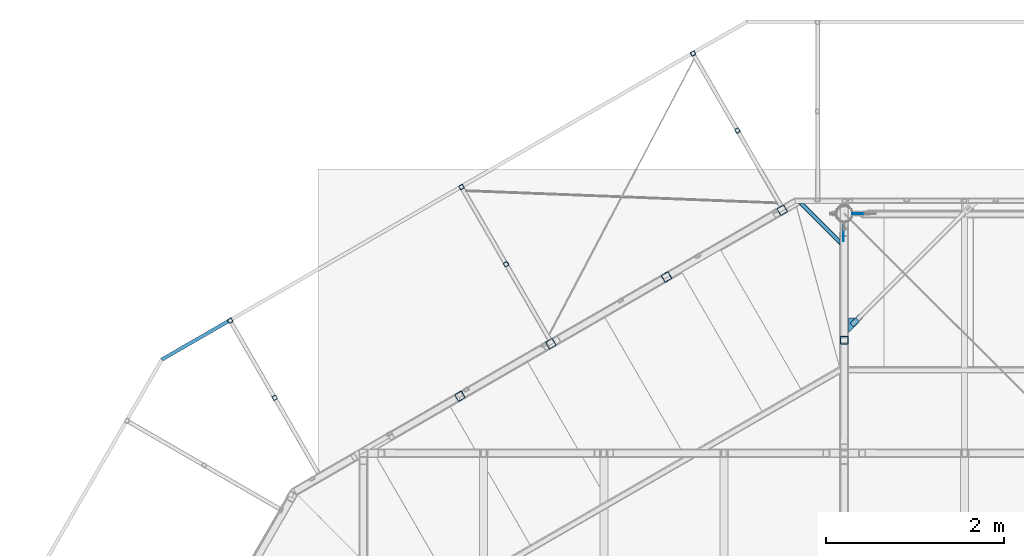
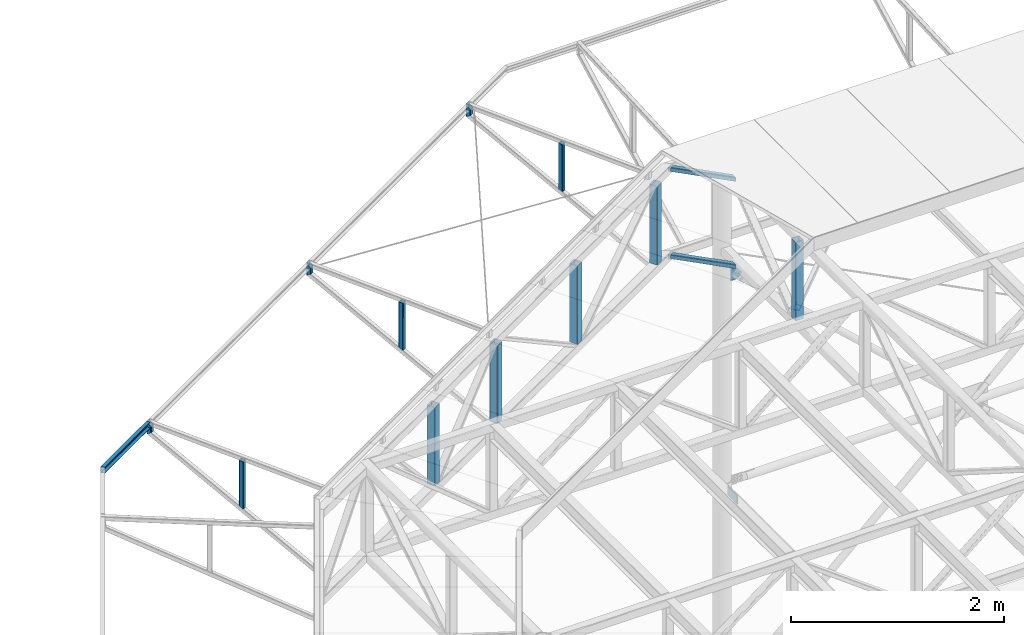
# One storey, part 88 of 132: 18 discrete accessories, 8 elements without a shape of their own.
"""IFC2X3 building model written with IfcOpenShell, lengths in millimetres."""

from ifc_helpers import new_model, si_unit, frame, origin_with_axes, origin_2d_with_axis, place, context, subcontext, project, spatial, polyline, hollow_rectangle, u_section, outline, extrude, boolean, clip, halfspace, material, type_object, element, aggregate, save


model = new_model("IFC2X3")

# Units and contexts
model_context = context("Model", 3, precision=1e-05, world=origin_with_axes())
body_context = subcontext(model_context, "Body", "Model", "MODEL_VIEW")
ifc_project = project(units=[si_unit("LENGTHUNIT", "METRE", prefix="MILLI"), si_unit("AREAUNIT", "SQUARE_METRE"), si_unit("VOLUMEUNIT", "CUBIC_METRE"), si_unit("MASSUNIT", "GRAM", prefix="KILO"), si_unit("TIMEUNIT", "SECOND"), si_unit("PLANEANGLEUNIT", "RADIAN"), si_unit("SOLIDANGLEUNIT", "STERADIAN"), si_unit("THERMODYNAMICTEMPERATUREUNIT", "DEGREE_CELSIUS"), si_unit("LUMINOUSINTENSITYUNIT", "LUMEN")], contexts=[model_context])

# Site, building, storey
site_placement = place(None, origin_with_axes())
site = spatial("IfcSite", under=ifc_project, at=site_placement, Name="Budowa", CompositionType="ELEMENT")
building_placement = place(site_placement, origin_with_axes())
building = spatial("IfcBuilding", under=site, at=building_placement, Name="Undefined", CompositionType="ELEMENT")
storey_placement = place(building_placement, origin_with_axes())
storey = spatial("IfcBuildingStorey", under=building, at=storey_placement, Name="Undefined", CompositionType="ELEMENT", Elevation=0.0)

# Assembly, discrete accessory
assembly_1_placement = place(storey_placement, origin_with_axes())
assembly_1 = element("IfcElementAssembly", 1, at=assembly_1_placement, inside=storey, Name="Steel Assembly", AssemblyPlace="NOTDEFINED", PredefinedType="RIGID_FRAME")
ifc_material = material(Name="STEEL/S235")
discrete_accessory_type_1 = type_object("IfcDiscreteAccessoryType", Name="BLACHA")
discrete_accessory_1_placement = place(assembly_1_placement, frame((9513.8999996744, 23999.9990001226, 12610.0003356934), z_axis=(0.0, -1.0, 0.0), x_axis=(0.0, 0.0, -1.0)))
discrete_accessory_1 = element("IfcDiscreteAccessory", 2, at=discrete_accessory_1_placement, type_object=discrete_accessory_type_1, material=ifc_material, Name="BLACHA", ObjectType="BL8*126", context=body_context, shape_type="SweptSolid", body=[
    extrude(outline(polyline([(0.0, 0.0), (203.000061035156, 0.0), (203.000061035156, 73.001091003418), (144.99951171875, 126.000587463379), (0.0, 10.0), (0.0, 0.0)])), frame((0.0, 0.0, -4.0), z_axis=(0.0, 0.0, 1.0), x_axis=(1.0, 0.0, 0.0)), (0.0, 0.0, 1.0), 8.0),
])
aggregate(assembly_1, [discrete_accessory_1])

assembly_2_placement = place(storey_placement, origin_with_axes())
assembly_2 = element("IfcElementAssembly", 3, at=assembly_2_placement, inside=storey, Name="Steel Assembly", AssemblyPlace="NOTDEFINED", PredefinedType="RIGID_FRAME")
discrete_accessory_2_placement = place(assembly_2_placement, frame((9417.00000249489, 23872.0920947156, 10116.0003779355), z_axis=(1.0, 0.0, 0.0), x_axis=(0.0, -1.0, 0.0)))
discrete_accessory_2 = element("IfcDiscreteAccessory", 4, at=discrete_accessory_2_placement, type_object=discrete_accessory_type_1, material=ifc_material, Name="BLACHA", ObjectType="BL8*100", context=body_context, shape_type="SweptSolid", body=[
    extrude(outline(polyline([(180.0, 50.0), (180.0, -50.0), (0.0, -50.0), (0.0, 50.0), (180.0, 50.0)])), frame((0.0, 0.0, -4.0), z_axis=(0.0, 0.0, 1.0), x_axis=(1.0, 0.0, 0.0)), (0.0, 0.0, 1.0), 8.0),
])
aggregate(assembly_2, [discrete_accessory_2])

assembly_3_placement = place(storey_placement, origin_with_axes())
assembly_3 = element("IfcElementAssembly", 5, at=assembly_3_placement, inside=storey, Name="Steel Assembly", AssemblyPlace="NOTDEFINED", PredefinedType="RIGID_FRAME")
discrete_accessory_3_placement = place(assembly_3_placement, frame((9587.99495120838, 22870.321358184, 12830.0), z_axis=(0.0, 0.0, 1.0), x_axis=(-0.70710678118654, -0.707106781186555, 0.0)))
discrete_accessory_3 = element("IfcDiscreteAccessory", 6, at=discrete_accessory_3_placement, type_object=discrete_accessory_type_1, material=ifc_material, Name="BLACHA", ObjectType="BL6*60", context=body_context, shape_type="SweptSolid", body=[
    extrude(outline(polyline([(0.0, 0.0), (139.99999999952, -6.2755134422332e-10), (139.99999999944, 59.9999999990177), (0.0, 60.0), (-8.00355337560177e-11, 54.9999999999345), (49.9999999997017, 54.9999999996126), (49.9999999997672, 4.99999999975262), (-8.73114913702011e-11, 5.00000000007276), (0.0, 0.0)])), frame((0.0, 0.0, -3.0), z_axis=(0.0, 0.0, 1.0), x_axis=(1.0, 0.0, 0.0)), (0.0, 0.0, 1.0), 6.0),
])
aggregate(assembly_3, [discrete_accessory_3])

assembly_4_placement = place(storey_placement, origin_with_axes())
assembly_4 = element("IfcElementAssembly", 7, at=assembly_4_placement, inside=storey, Name="Steel Assembly", AssemblyPlace="NOTDEFINED", PredefinedType="RIGID_FRAME")
discrete_accessory_4_placement = place(assembly_4_placement, frame((9474.99999994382, 22831.4304833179, 12824.0), z_axis=(0.0, 0.0, 1.0), x_axis=(0.0, -1.0, 0.0)))
discrete_accessory_4 = element("IfcDiscreteAccessory", 8, at=discrete_accessory_4_placement, type_object=discrete_accessory_type_1, material=ifc_material, Name="BLACHA", ObjectType="BL6*117", context=body_context, shape_type="SweptSolid", body=[
    extrude(outline(polyline([(0.0, 0.0), (166.027954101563, 0.0), (49.4974746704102, 116.530487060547), (0.0, 67.0330123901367), (0.0, 0.0)])), frame((0.0, 0.0, -3.0), z_axis=(0.0, 0.0, 1.0), x_axis=(1.0, 0.0, 0.0)), (0.0, 0.0, 1.0), 6.0),
])

assembly_5_placement = place(storey_placement, origin_with_axes())
assembly_5 = element("IfcElementAssembly", 9, at=assembly_5_placement, inside=storey, Name="Steel Assembly", AssemblyPlace="NOTDEFINED", PredefinedType="RIGID_FRAME")
discrete_accessory_type_2 = type_object("IfcDiscreteAccessoryType", Name="BEAM")
discrete_accessory_5_placement = place(assembly_5_placement, frame((2505.43119991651, 22791.0277361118, 13945.0050192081), z_axis=(0.0, 0.0, -1.0), x_axis=(-0.866042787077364, -0.499969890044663, 0.0)))
discrete_accessory_5 = element("IfcDiscreteAccessory", 10, at=discrete_accessory_5_placement, type_object=discrete_accessory_type_2, material=ifc_material, Name="BEAM", ObjectType="C70*40*4", context=body_context, shape_type="Clipping", body=[
    clip(extrude(u_section(Depth=70.0, FlangeWidth=40.0, WebThickness=4.0, FlangeThickness=4.0, FilletRadius=6.0, at=origin_2d_with_axis()), frame((895.286205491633, 4.9698367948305e-14, 0.0), z_axis=(-1.0, 0.0, 0.0), x_axis=(0.0, -1.0, 0.0)), (0.0, 0.0, 1.0), 895.29), halfspace(frame((862.95291420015, 20.000069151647, -3.95153965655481e-05), z_axis=(0.965917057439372, -0.258851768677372, 5.11236506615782e-07), x_axis=(-1.71128704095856e-10, -1.71094966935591e-06, -0.999999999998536)), False)),
])
aggregate(assembly_5, [discrete_accessory_5])

# Assembly, discrete accessories
assembly_6_placement = place(storey_placement, origin_with_axes())
assembly_6 = element("IfcElementAssembly", 11, at=assembly_6_placement, inside=storey, Name="Steel Assembly", AssemblyPlace="NOTDEFINED", PredefinedType="RIGID_FRAME")
discrete_accessory_6_placement = place(assembly_6_placement, frame((3029.55200915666, 21933.1539823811, 13878.94002838), z_axis=(-0.866042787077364, -0.499969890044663, 0.0), x_axis=(0.0, 0.0, -1.0)))
discrete_accessory_6 = element("IfcDiscreteAccessory", 12, at=discrete_accessory_6_placement, type_object=discrete_accessory_type_2, material=ifc_material, Name="BEAM", ObjectType="SHS50*4", context=body_context, shape_type="Clipping", body=[
    clip(clip(extrude(hollow_rectangle(XDim=50.0, YDim=50.0, WallThickness=4.0, InnerFilletRadius=4.0, OuterFilletRadius=8.0, at=origin_2d_with_axis()), frame((545.085010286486, 0.0, 0.0), z_axis=(-1.0, 0.0, 0.0), x_axis=(0.0, -1.0, 0.0)), (0.0, 0.0, 1.0), 559.36), halfspace(frame((536.667324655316, 11.6203888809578, 999.999999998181), z_axis=(-0.885407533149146, 0.464815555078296, 0.0), x_axis=(-0.464815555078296, -0.885407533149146, 0.0)), True)), halfspace(frame((0.185048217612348, -1.24844042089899, 999.999999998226), z_axis=(0.998752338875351, -0.0499376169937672, 0.0), x_axis=(0.0499376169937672, 0.998752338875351, 0.0)), True)),
])
discrete_accessory_7_placement = place(assembly_6_placement, frame((2529.58211910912, 22799.1967694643, 13979.9998397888), z_axis=(-0.866042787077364, -0.499969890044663, 0.0), x_axis=(0.0, 0.0, -1.0)))
discrete_accessory_7 = element("IfcDiscreteAccessory", 13, at=discrete_accessory_7_placement, type_object=discrete_accessory_type_2, material=ifc_material, Name="BEAM", ObjectType="SHS50*4", context=body_context, shape_type="Clipping", body=[
    clip(clip(extrude(hollow_rectangle(XDim=50.0, YDim=50.0, WallThickness=4.0, InnerFilletRadius=4.0, OuterFilletRadius=8.0, at=origin_2d_with_axis()), frame((176.695154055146, 0.0, 0.0), z_axis=(-1.0, 0.0, 0.0), x_axis=(0.0, -1.0, 0.0)), (0.0, 0.0, 1.0), 192.23), halfspace(frame((149.999998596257, -25.0000000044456, 4.06544131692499e-09), z_axis=(0.855808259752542, 0.517293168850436, 0.0), x_axis=(0.0, 0.0, 1.0)), False)), halfspace(frame((-0.00517941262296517, -25.0000000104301, 1.04982973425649e-08), z_axis=(-0.689225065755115, 0.724547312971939, 0.0), x_axis=(0.0, 0.0, -1.0)), False)),
])
aggregate(assembly_6, [discrete_accessory_6, discrete_accessory_7])

assembly_7_placement = place(storey_placement, origin_with_axes())
assembly_7 = element("IfcElementAssembly", 14, at=assembly_7_placement, inside=storey, Name="Steel Assembly", AssemblyPlace="NOTDEFINED", PredefinedType="RIGID_FRAME")
discrete_accessory_8_placement = place(assembly_7_placement, frame((8225.80873164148, 24932.9733226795, 13878.94002838), z_axis=(-0.866042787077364, -0.499969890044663, 0.0), x_axis=(0.0, 0.0, -1.0)))
discrete_accessory_8 = element("IfcDiscreteAccessory", 15, at=discrete_accessory_8_placement, type_object=discrete_accessory_type_2, material=ifc_material, Name="BEAM", ObjectType="SHS50*4", context=body_context, shape_type="Clipping", body=[
    clip(clip(extrude(hollow_rectangle(XDim=50.0, YDim=50.0, WallThickness=4.0, InnerFilletRadius=4.0, OuterFilletRadius=8.0, at=origin_2d_with_axis()), frame((545.085010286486, 0.0, 0.0), z_axis=(-1.0, 0.0, 0.0), x_axis=(0.0, -1.0, 0.0)), (0.0, 0.0, 1.0), 559.36), halfspace(frame((536.667324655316, 11.6203888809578, 999.999999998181), z_axis=(-0.885407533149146, 0.464815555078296, 0.0), x_axis=(-0.464815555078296, -0.885407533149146, 0.0)), True)), halfspace(frame((0.185048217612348, -1.24844042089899, 999.999999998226), z_axis=(0.998752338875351, -0.0499376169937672, 0.0), x_axis=(0.0499376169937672, 0.998752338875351, 0.0)), True)),
])
discrete_accessory_9_placement = place(assembly_7_placement, frame((7725.8388415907, 25799.0161097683, 13979.9998397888), z_axis=(-0.866042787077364, -0.499969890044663, 0.0), x_axis=(0.0, 0.0, -1.0)))
discrete_accessory_9 = element("IfcDiscreteAccessory", 16, at=discrete_accessory_9_placement, type_object=discrete_accessory_type_2, material=ifc_material, Name="BEAM", ObjectType="SHS50*4", context=body_context, shape_type="Clipping", body=[
    clip(clip(extrude(hollow_rectangle(XDim=50.0, YDim=50.0, WallThickness=4.0, InnerFilletRadius=4.0, OuterFilletRadius=8.0, at=origin_2d_with_axis()), frame((176.695154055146, 0.0, 0.0), z_axis=(-1.0, 0.0, 0.0), x_axis=(0.0, -1.0, 0.0)), (0.0, 0.0, 1.0), 192.23), halfspace(frame((149.999998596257, -25.0000000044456, 4.06544131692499e-09), z_axis=(0.855808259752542, 0.517293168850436, 0.0), x_axis=(0.0, 0.0, 1.0)), False)), halfspace(frame((-0.00517941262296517, -25.0000000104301, 1.04982973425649e-08), z_axis=(-0.689225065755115, 0.724547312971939, 0.0), x_axis=(0.0, 0.0, -1.0)), False)),
])
aggregate(assembly_7, [discrete_accessory_8, discrete_accessory_9])

assembly_8_placement = place(storey_placement, origin_with_axes())
assembly_8 = element("IfcElementAssembly", 17, at=assembly_8_placement, inside=storey, Name="Steel Assembly", AssemblyPlace="NOTDEFINED", PredefinedType="RIGID_FRAME")
discrete_accessory_10_placement = place(assembly_8_placement, frame((5627.68037039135, 23433.0636525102, 13878.94002838), z_axis=(-0.866042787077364, -0.499969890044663, 0.0), x_axis=(0.0, 0.0, -1.0)))
discrete_accessory_10 = element("IfcDiscreteAccessory", 18, at=discrete_accessory_10_placement, type_object=discrete_accessory_type_2, material=ifc_material, Name="BEAM", ObjectType="SHS50*4", context=body_context, shape_type="Clipping", body=[
    clip(clip(extrude(hollow_rectangle(XDim=50.0, YDim=50.0, WallThickness=4.0, InnerFilletRadius=4.0, OuterFilletRadius=8.0, at=origin_2d_with_axis()), frame((545.085010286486, 0.0, 0.0), z_axis=(-1.0, 0.0, 0.0), x_axis=(0.0, -1.0, 0.0)), (0.0, 0.0, 1.0), 559.36), halfspace(frame((536.667324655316, 11.6203888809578, 999.999999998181), z_axis=(-0.885407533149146, 0.464815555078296, 0.0), x_axis=(-0.464815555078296, -0.885407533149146, 0.0)), True)), halfspace(frame((0.185048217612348, -1.24844042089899, 999.999999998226), z_axis=(0.998752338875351, -0.0499376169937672, 0.0), x_axis=(0.0499376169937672, 0.998752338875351, 0.0)), True)),
])
discrete_accessory_11_placement = place(assembly_8_placement, frame((5127.71048034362, 24299.1064395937, 13979.9998397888), z_axis=(-0.866042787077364, -0.499969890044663, 0.0), x_axis=(0.0, 0.0, -1.0)))
discrete_accessory_11 = element("IfcDiscreteAccessory", 19, at=discrete_accessory_11_placement, type_object=discrete_accessory_type_2, material=ifc_material, Name="BEAM", ObjectType="SHS50*4", context=body_context, shape_type="Clipping", body=[
    clip(clip(extrude(hollow_rectangle(XDim=50.0, YDim=50.0, WallThickness=4.0, InnerFilletRadius=4.0, OuterFilletRadius=8.0, at=origin_2d_with_axis()), frame((176.695154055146, 0.0, 0.0), z_axis=(-1.0, 0.0, 0.0), x_axis=(0.0, -1.0, 0.0)), (0.0, 0.0, 1.0), 192.23), halfspace(frame((149.999998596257, -25.0000000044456, 4.06544131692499e-09), z_axis=(0.855808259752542, 0.517293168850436, 0.0), x_axis=(0.0, 0.0, 1.0)), False)), halfspace(frame((-0.00517941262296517, -25.0000000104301, 1.04982973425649e-08), z_axis=(-0.689225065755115, 0.724547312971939, 0.0), x_axis=(0.0, 0.0, -1.0)), False)),
])
aggregate(assembly_8, [discrete_accessory_10, discrete_accessory_11])

# Discrete accessory
discrete_accessory_12_placement = place(assembly_4_placement, frame((9424.99999994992, 23630.9000000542, 12830.0), z_axis=(0.0, 0.0, 1.0), x_axis=(-0.707106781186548, 0.707106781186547, 0.0)))
solid_1 = boolean("DIFFERENCE", extrude(hollow_rectangle(XDim=100.0, YDim=100.0, WallThickness=5.0, InnerFilletRadius=5.0, OuterFilletRadius=10.0, at=origin_2d_with_axis()), frame((2199.68118985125, 5472.49499178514, 1.81898940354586e-12), z_axis=(-0.259884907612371, -0.965639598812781, 0.0), x_axis=(0.965639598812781, -0.259884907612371, 0.0)), (0.0, 0.0, 1.0), 5667.29), halfspace(frame((782.060099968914, 12.727922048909, 1.81898940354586e-12), z_axis=(0.22574645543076, -0.9741860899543, 0.0), x_axis=(-0.9741860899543, -0.22574645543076, 0.0)), False))
discrete_accessory_12 = element("IfcDiscreteAccessory", 20, at=discrete_accessory_12_placement, type_object=discrete_accessory_type_2, material=ifc_material, Name="BEAM", ObjectType="SHS50*4", context=body_context, shape_type="CSG", body=[
    boolean("DIFFERENCE", boolean("DIFFERENCE", boolean("DIFFERENCE", extrude(hollow_rectangle(XDim=50.0, YDim=50.0, WallThickness=4.0, InnerFilletRadius=4.0, OuterFilletRadius=8.0, at=origin_2d_with_axis()), frame((721.003612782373, 9.09494701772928e-13, 1.81898940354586e-12), z_axis=(-1.0, 0.0, 0.0), x_axis=(0.0, -1.0, 0.0)), (0.0, 0.0, 1.0), 686.82), solid_1), halfspace(frame((705.69256762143, 21.2132034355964, 1000.0), z_axis=(-0.707106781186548, 0.707106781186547, 0.0), x_axis=(-0.70710678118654, -0.707106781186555, 0.0)), True)), halfspace(frame((35.3553390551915, 35.3553390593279, 1000.0), z_axis=(0.707106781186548, 0.707106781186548, 0.0), x_axis=(-0.707106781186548, 0.707106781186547, 0.0)), True)),
])

discrete_accessory_13_placement = place(assembly_4_placement, frame((9424.99999994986, 23630.9000000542, 13830.0), z_axis=(0.0, 0.0, 1.0), x_axis=(-0.707106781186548, 0.707106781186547, 0.0)))
solid_2 = boolean("DIFFERENCE", extrude(hollow_rectangle(XDim=100.0, YDim=100.0, WallThickness=5.0, InnerFilletRadius=5.0, OuterFilletRadius=10.0, at=origin_2d_with_axis()), frame((2199.68118985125, 5472.49499178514, 1.81898940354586e-12), z_axis=(-0.259884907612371, -0.965639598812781, 0.0), x_axis=(0.965639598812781, -0.259884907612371, 0.0)), (0.0, 0.0, 1.0), 5667.29), halfspace(frame((782.060099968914, 12.727922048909, 1.81898940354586e-12), z_axis=(0.22574645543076, -0.9741860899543, 0.0), x_axis=(-0.9741860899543, -0.22574645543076, 0.0)), False))
discrete_accessory_13 = element("IfcDiscreteAccessory", 21, at=discrete_accessory_13_placement, type_object=discrete_accessory_type_2, material=ifc_material, Name="BEAM", ObjectType="SHS50*4", context=body_context, shape_type="CSG", body=[
    boolean("DIFFERENCE", boolean("DIFFERENCE", boolean("DIFFERENCE", extrude(hollow_rectangle(XDim=50.0, YDim=50.0, WallThickness=4.0, InnerFilletRadius=4.0, OuterFilletRadius=8.0, at=origin_2d_with_axis()), frame((721.003612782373, 9.09494701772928e-13, 1.81898940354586e-12), z_axis=(-1.0, 0.0, 0.0), x_axis=(0.0, -1.0, 0.0)), (0.0, 0.0, 1.0), 686.82), solid_2), halfspace(frame((705.69256762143, 21.2132034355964, 1000.0), z_axis=(-0.707106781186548, 0.707106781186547, 0.0), x_axis=(-0.70710678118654, -0.707106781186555, 0.0)), True)), halfspace(frame((35.3553390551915, 35.3553390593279, 1000.0), z_axis=(0.707106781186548, 0.707106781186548, 0.0), x_axis=(-0.707106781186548, 0.707106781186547, 0.0)), True)),
])

discrete_accessory_14_placement = place(assembly_4_placement, frame((5109.60877879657, 21950.3186919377, 12880.0), z_axis=(0.0, 0.0, 1.0), x_axis=(-0.499969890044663, 0.866042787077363, 0.0)))
discrete_accessory_14 = element("IfcDiscreteAccessory", 22, at=discrete_accessory_14_placement, type_object=discrete_accessory_type_2, material=ifc_material, Name="BEAM", ObjectType="SHS90*4", context=body_context, shape_type="Clipping", body=[
    clip(clip(extrude(hollow_rectangle(XDim=90.0, YDim=90.0, WallThickness=4.0, InnerFilletRadius=4.0, OuterFilletRadius=8.0, at=origin_2d_with_axis()), frame((0.0, 0.0, 900.0), z_axis=(0.0, 0.0, -1.0), x_axis=(0.0, 1.0, 0.0)), (0.0, 0.0, 1.0), 900.0), halfspace(frame((1000.0, 0.0, 900.0), z_axis=(0.0, 0.0, -1.0), x_axis=(0.0, 1.0, 0.0)), True)), halfspace(frame((1000.0, 0.0, 0.0), z_axis=(0.0, 0.0, 1.0), x_axis=(0.0, -1.0, 0.0)), True)),
])

discrete_accessory_15_placement = place(assembly_4_placement, frame((6129.80718197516, 22539.2832224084, 12880.0), z_axis=(0.0, 0.0, 1.0), x_axis=(-0.499969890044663, 0.866042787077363, 0.0)))
discrete_accessory_15 = element("IfcDiscreteAccessory", 23, at=discrete_accessory_15_placement, type_object=discrete_accessory_type_2, material=ifc_material, Name="BEAM", ObjectType="SHS90*4", context=body_context, shape_type="Clipping", body=[
    clip(clip(extrude(hollow_rectangle(XDim=90.0, YDim=90.0, WallThickness=4.0, InnerFilletRadius=4.0, OuterFilletRadius=8.0, at=origin_2d_with_axis()), frame((0.0, 0.0, 900.0), z_axis=(0.0, 0.0, -1.0), x_axis=(0.0, 1.0, 0.0)), (0.0, 0.0, 1.0), 900.0), halfspace(frame((1000.0, 0.0, 900.0), z_axis=(0.0, 0.0, -1.0), x_axis=(0.0, 1.0, 0.0)), True)), halfspace(frame((1000.0, 0.0, 0.0), z_axis=(0.0, 0.0, 1.0), x_axis=(0.0, -1.0, 0.0)), True)),
])

discrete_accessory_16_placement = place(assembly_4_placement, frame((7428.87136259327, 23289.2380574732, 12880.0), z_axis=(0.0, 0.0, 1.0), x_axis=(-0.499969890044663, 0.866042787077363, 0.0)))
discrete_accessory_16 = element("IfcDiscreteAccessory", 24, at=discrete_accessory_16_placement, type_object=discrete_accessory_type_2, material=ifc_material, Name="BEAM", ObjectType="SHS90*4", context=body_context, shape_type="Clipping", body=[
    clip(clip(extrude(hollow_rectangle(XDim=90.0, YDim=90.0, WallThickness=4.0, InnerFilletRadius=4.0, OuterFilletRadius=8.0, at=origin_2d_with_axis()), frame((0.0, 0.0, 900.0), z_axis=(0.0, 0.0, -1.0), x_axis=(0.0, 1.0, 0.0)), (0.0, 0.0, 1.0), 900.0), halfspace(frame((1000.0, 0.0, 900.0), z_axis=(0.0, 0.0, -1.0), x_axis=(0.0, 1.0, 0.0)), True)), halfspace(frame((1000.0, 0.0, 0.0), z_axis=(0.0, 0.0, 1.0), x_axis=(0.0, -1.0, 0.0)), True)),
])

discrete_accessory_17_placement = place(assembly_4_placement, frame((8727.93554321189, 24039.1928925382, 12880.0), z_axis=(0.0, 0.0, 1.0), x_axis=(-0.499969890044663, 0.866042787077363, 0.0)))
discrete_accessory_17 = element("IfcDiscreteAccessory", 25, at=discrete_accessory_17_placement, type_object=discrete_accessory_type_2, material=ifc_material, Name="BEAM", ObjectType="SHS90*4", context=body_context, shape_type="Clipping", body=[
    clip(clip(extrude(hollow_rectangle(XDim=90.0, YDim=90.0, WallThickness=4.0, InnerFilletRadius=4.0, OuterFilletRadius=8.0, at=origin_2d_with_axis()), frame((0.0, 0.0, 900.0), z_axis=(0.0, 0.0, -1.0), x_axis=(0.0, 1.0, 0.0)), (0.0, 0.0, 1.0), 900.0), halfspace(frame((1000.0, 0.0, 900.0), z_axis=(0.0, 0.0, -1.0), x_axis=(0.0, 1.0, 0.0)), True)), halfspace(frame((1000.0, 0.0, 0.0), z_axis=(0.0, 0.0, 1.0), x_axis=(0.0, -1.0, 0.0)), True)),
])

discrete_accessory_18_placement = place(assembly_4_placement, frame((9424.99999994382, 22580.0000000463, 12880.0), z_axis=(0.0, 0.0, 1.0), x_axis=(-1.0, 0.0, 0.0)))
discrete_accessory_18 = element("IfcDiscreteAccessory", 26, at=discrete_accessory_18_placement, type_object=discrete_accessory_type_2, material=ifc_material, Name="BEAM", ObjectType="SHS90*6", context=body_context, shape_type="Clipping", body=[
    clip(clip(extrude(hollow_rectangle(XDim=90.0, YDim=90.0, WallThickness=6.0, InnerFilletRadius=6.0, OuterFilletRadius=12.0, at=origin_2d_with_axis()), frame((0.0, 0.0, 900.0), z_axis=(0.0, 0.0, -1.0), x_axis=(0.0, 1.0, 0.0)), (0.0, 0.0, 1.0), 900.0), halfspace(frame((1000.0, 0.0, 900.0), z_axis=(0.0, 0.0, -1.0), x_axis=(0.0, 1.0, 0.0)), True)), halfspace(frame((1000.0, 0.0, 0.0), z_axis=(0.0, 0.0, 1.0), x_axis=(0.0, -1.0, 0.0)), True)),
])

aggregate(assembly_4, [discrete_accessory_4, discrete_accessory_12, discrete_accessory_13, discrete_accessory_14, discrete_accessory_15, discrete_accessory_16, discrete_accessory_17, discrete_accessory_18])

save(model, "model.ifc")
